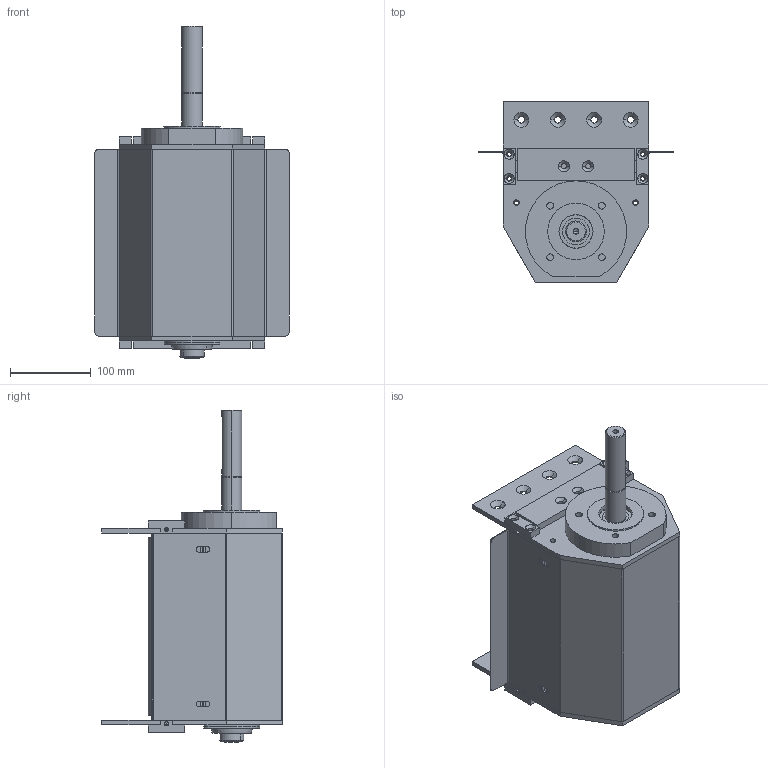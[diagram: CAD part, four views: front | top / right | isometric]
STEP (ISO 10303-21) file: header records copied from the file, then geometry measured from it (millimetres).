
FILE_DESCRIPTION (( 'STEP AP203' ), '1' );
FILE_NAME ('084.050.KCS.49.200.step', '2014-02-18T11:36:32', ( '' ), ( '' ), 'SwSTEP 2.0', 'SolidWorks 2012', '' );
FILE_SCHEMA (( 'CONFIG_CONTROL_DESIGN' ));
Length unit declared in the file: millimetre
Products named in the file (16): CUSCINETTI A SFERE_6004-2RS; 084.802.012_Solo centrale; 084.050.KCS.49.200; 084.817.028; 084.817.025_Default<A macchina>; 084.817.026; 084.817.027; TRAVERSA PER CARTER^084.050.KCS.49.200_Default<A macchina>; 084.802.011; 084.802.021; 084.814.003-1; 084.810.003; 084.802.004-1; 084.802.020; 084.812.003; 084.802.003
Assembly tree (27 placements, depth 2):
  084.050.KCS.49.200
    084.817.028  x2
    084.817.025_Default<A macchina>
    084.817.026
    084.817.027  x2
    TRAVERSA PER CARTER^084.050.KCS.49.200_Default<A macchina>  x2
    084.802.011
    084.802.021
    084.814.003-1
    084.810.003  x2
    084.802.004-1  x4
    084.802.020
    084.812.003
    084.802.003  x2
    CUSCINETTI A SFERE_6004-2RS  x4
    084.802.012_Solo centrale  x2
Bounding box: 240 x 223 x 410 mm (x, y, z)
Volume: 2232717.7 mm3; surface area: 1107274.2 mm2
Topology: 29 solids, 29 shells, 1043 faces, 2624 edges, 1684 vertices
Faces by surface type: plane 441, cylinder 391, cone 133, torus 68, sphere 10
Entity records: 21367 total; most frequent: DIRECTION 3583, CARTESIAN_POINT 3375, ORIENTED_EDGE 3146, EDGE_CURVE 1573, AXIS2_PLACEMENT_3D 1359, VERTEX_POINT 1011, VECTOR 865, LINE 865
